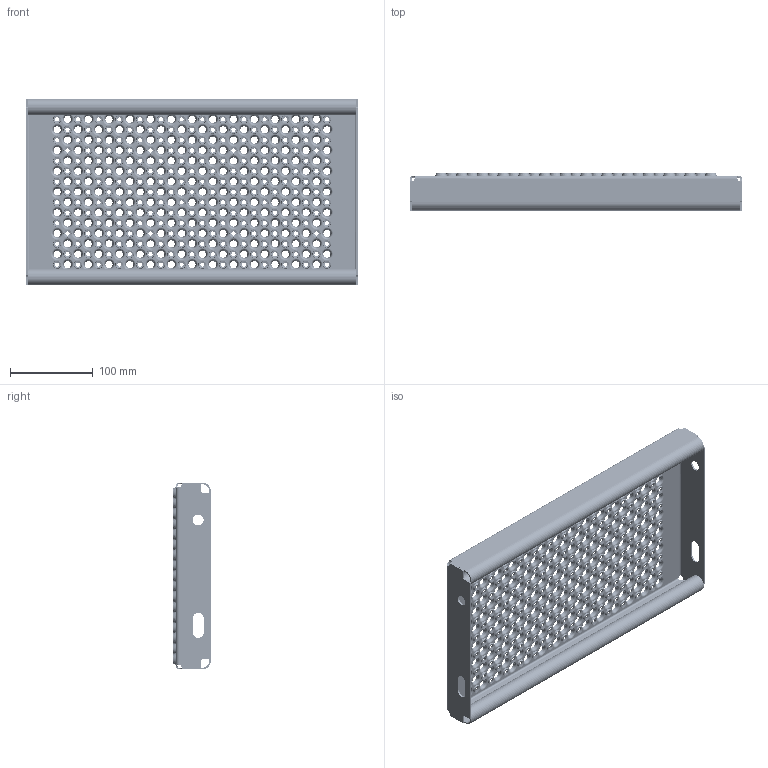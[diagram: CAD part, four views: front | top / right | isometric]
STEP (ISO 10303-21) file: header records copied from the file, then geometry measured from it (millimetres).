
FILE_DESCRIPTION (( 'STEP AP214' ), '1' );
FILE_NAME ('OPTIMO-Tread-Achil-O2-400x225x45x2-st240-F100110100.STEP', '2021-03-16T06:45:35', ( '' ), ( '' ), 'SwSTEP 2.0', 'SolidWorks 2021', '' );
FILE_SCHEMA (( 'AUTOMOTIVE_DESIGN' ));
Length unit declared in the file: millimetre
Products named in the file (1): OPTIMO-Tread-Achil-O2-400x225x45x2-st240-F100110100
Bounding box: 400 x 45 x 225 mm (x, y, z)
Volume: 336102.5 mm3; surface area: 362373 mm2
Topology: 1 solids, 1 shells, 4688 faces, 12166 edges, 7480 vertices
Faces by surface type: cone 2754, torus 1836, plane 50, cylinder 40, bspline 8
Entity records: 149268 total; most frequent: DIRECTION 30740, CARTESIAN_POINT 24927, ORIENTED_EDGE 24332, AXIS2_PLACEMENT_3D 13925, EDGE_CURVE 12166, CIRCLE 9244, VERTEX_POINT 7480, EDGE_LOOP 5614
